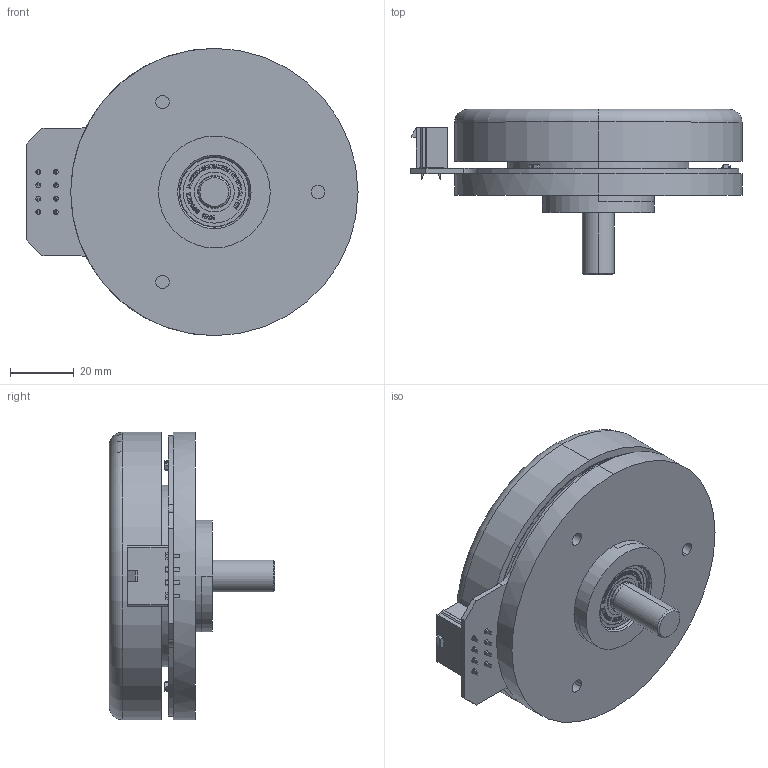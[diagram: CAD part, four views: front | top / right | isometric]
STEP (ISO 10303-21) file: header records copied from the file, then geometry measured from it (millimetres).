
FILE_DESCRIPTION((''),'2;1');
FILE_NAME('0000241387','2019-01-10T',('lifengcai'),(''),'CREO PARAMETRIC BY PTC INC, 2015200','CREO PARAMETRIC BY PTC INC, 2015200','');
FILE_SCHEMA(('CONFIG_CONTROL_DESIGN'));
Products named in the file (1): 0000241387
Bounding box: 104 x 51.8 x 90 mm (x, y, z)
Surface area: 65298 mm2 (no closed solid volume)
Topology: 0 solids, 3 shells, 2643 faces, 7398 edges, 4894 vertices
Faces by surface type: plane 2358, cylinder 242, cone 25, torus 18
Entity records: 83951 total; most frequent: CARTESIAN_POINT 15096, ORIENTED_EDGE 14784, DIRECTION 13399, EDGE_CURVE 7392, VECTOR 6537, LINE 6537, VERTEX_POINT 4894, AXIS2_PLACEMENT_3D 3431
